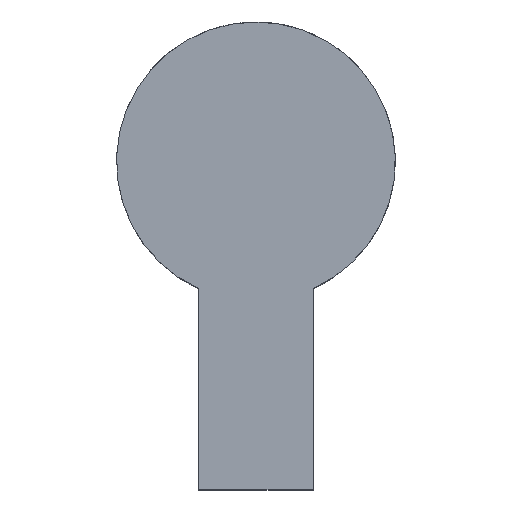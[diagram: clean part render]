
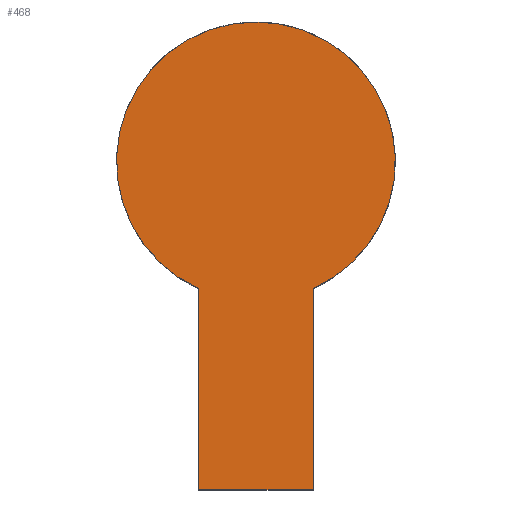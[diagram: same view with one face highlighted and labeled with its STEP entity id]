
A CAD part, top view. The second image highlights one B-rep face of the part: STEP entity #468.
In plain terms, the highlighted planar face has unit normal (0, 0, 1).
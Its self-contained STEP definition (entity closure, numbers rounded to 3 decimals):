
#306=CARTESIAN_POINT('',(3.,-17.2,0.0));
#307=VERTEX_POINT('',#306);
#308=CARTESIAN_POINT('',(3.,-6.655,0.0));
#309=VERTEX_POINT('',#308);
#310=CARTESIAN_POINT('',(3.,-17.2,0.0));
#311=DIRECTION('',(0.0,1.0,0.0));
#312=VECTOR('',#311,10.545);
#313=LINE('',#310,#312);
#314=EDGE_CURVE('',#307,#309,#313,.T.);
#346=CARTESIAN_POINT('',(-3.,-17.2,0.0));
#347=VERTEX_POINT('',#346);
#363=CARTESIAN_POINT('',(-3.,-17.2,0.0));
#364=DIRECTION('',(1.0,0.0,0.0));
#365=VECTOR('',#364,6.);
#366=LINE('',#363,#365);
#367=EDGE_CURVE('',#347,#307,#366,.T.);
#377=CARTESIAN_POINT('',(-3.,-6.655,0.0));
#378=VERTEX_POINT('',#377);
#379=CARTESIAN_POINT('',(-3.,-6.655,0.0));
#380=DIRECTION('',(0.0,-1.0,0.0));
#381=VECTOR('',#380,10.545);
#382=LINE('',#379,#381);
#383=EDGE_CURVE('',#378,#347,#382,.T.);
#427=CARTESIAN_POINT('',(0.0,0.0,0.0));
#428=DIRECTION('',(0.0,0.0,-1.0));
#429=DIRECTION('',(-1.0,0.0,0.0));
#430=AXIS2_PLACEMENT_3D('',#427,#428,#429);
#431=CIRCLE('',#430,7.3);
#432=EDGE_CURVE('',#378,#309,#431,.T.);
#457=CARTESIAN_POINT('',(0.0,0.0,0.0));
#458=DIRECTION('',(0.0,0.0,-1.0));
#459=DIRECTION('',(-1.0,0.0,0.0));
#460=AXIS2_PLACEMENT_3D('',#457,#458,#459);
#461=PLANE('',#460);
#462=ORIENTED_EDGE('',*,*,#314,.T.);
#463=ORIENTED_EDGE('',*,*,#432,.F.);
#464=ORIENTED_EDGE('',*,*,#383,.T.);
#465=ORIENTED_EDGE('',*,*,#367,.T.);
#466=EDGE_LOOP('',(#462,#463,#464,#465));
#467=FACE_OUTER_BOUND('',#466,.T.);
#468=ADVANCED_FACE('',(#467),#461,.F.);
